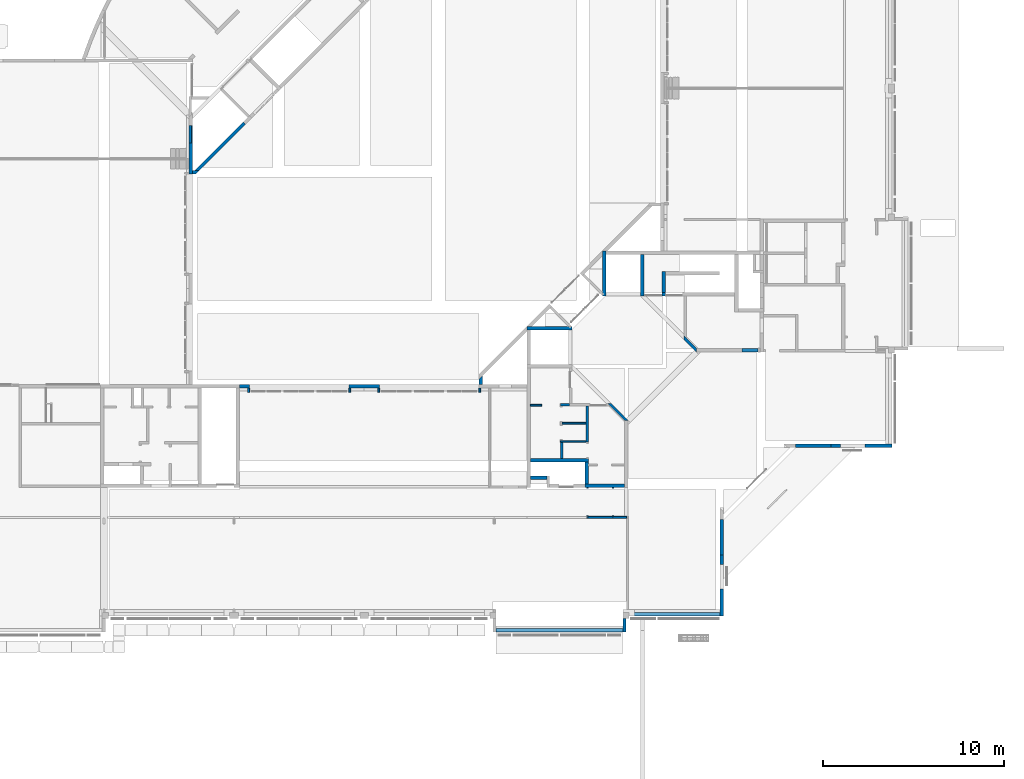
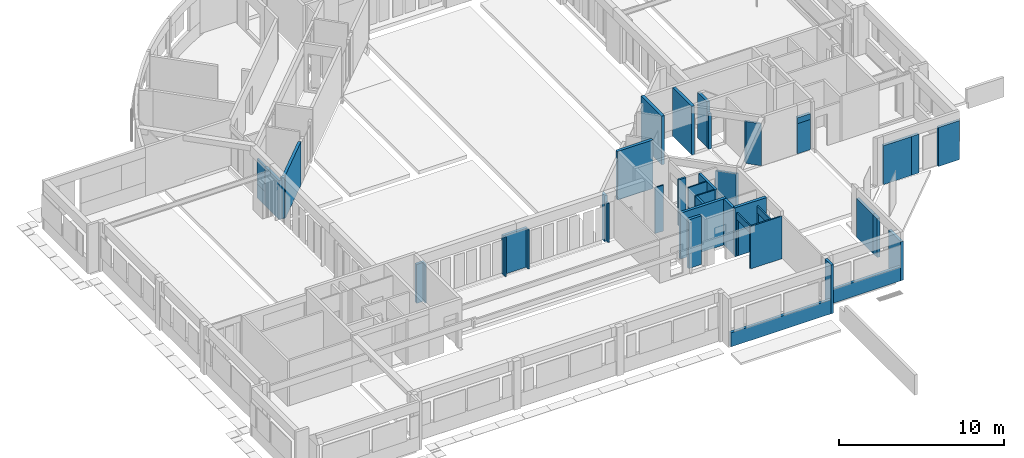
# One storey, part 16 of 30: 43 walls.
"""IFC4X3_ADD2 building model written with IfcOpenShell, lengths in millimetres."""

from ifc_helpers import new_model, si_unit, direction, frame, frame_2d, origin_with_axes, origin_2d_with_axis, place, context, subcontext, project, spatial, polyline, rectangle, outline, extrude, source, transform, mapped, material, type_object, type_shapes, element, save


model = new_model("IFC4X3_ADD2")

# Units and contexts
model_context = context("Model", 3, precision=1e-05, world=origin_with_axes(), true_north=direction((0.0, 1.0)))
body_context = subcontext(model_context, "Body", "Model", "MODEL_VIEW")
ifc_project = project(units=[si_unit("LENGTHUNIT", "METRE", prefix="MILLI"), si_unit("AREAUNIT", "SQUARE_METRE"), si_unit("VOLUMEUNIT", "CUBIC_METRE"), si_unit("PLANEANGLEUNIT", "RADIAN"), si_unit("TIMEUNIT", "SECOND"), si_unit("MASSUNIT", "GRAM")], contexts=[model_context])

# Site, building, storey
site_placement = place(None, origin_with_axes())
site = spatial("IfcSite", under=ifc_project, at=site_placement, Name="Site", CompositionType="ELEMENT")
building_placement = place(site_placement, origin_with_axes())
building = spatial("IfcBuilding", under=site, at=building_placement, Name="IFC Building Story")
storey_placement = place(building_placement, origin_with_axes())
storey = spatial("IfcBuildingStorey", under=building, at=storey_placement, Name="000", Elevation=0.0)

# Walls
ifc_material_1 = material(Name="BB_Beton_Bestaand")
wall_type_1 = type_object("IfcWallType", Name="BB_Beton_Bestaand 200", PredefinedType="NOTDEFINED", material=ifc_material_1)
wall_1_placement = place(storey_placement, origin_with_axes())
element("IfcWall", 1, at=wall_1_placement, inside=storey, type_object=wall_type_1, Name="Basic Wall:BB_XX_Wand uit beton, 200 mm", ObjectType="Basic Wall:BB_XX_Wand uit beton, 200 mm", PredefinedType="SOLIDWALL", context=body_context, shape_type="SweptSolid", body=[
    extrude(rectangle(XDim=2500.254939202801, YDim=199.9999999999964, at=frame_2d((0.0, 0.0), x_axis=(0.0, 1.0))), frame((-15815.0, 18850.1274696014, -80.0), z_axis=(0.0, 0.0, 1.0), x_axis=(1.0, 0.0, 0.0)), (0.0, 0.0, 1.0), 3600.0),
])
wall_2_placement = place(storey_placement, origin_with_axes())
element("IfcWall", 2, at=wall_2_placement, inside=storey, type_object=wall_type_1, Name="Basic Wall:BB_XX_Wand uit beton, 200 mm", ObjectType="Basic Wall:BB_XX_Wand uit beton, 200 mm", PredefinedType="SOLIDWALL", context=body_context, shape_type="SweptSolid", body=[
    extrude(rectangle(XDim=2299.999999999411, YDim=199.9999999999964, at=frame_2d((0.0, 0.0), x_axis=(0.0, 1.0))), frame((-13715.0, 18749.99999999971, -80.0), z_axis=(0.0, 0.0, 1.0), x_axis=(1.0, 0.0, 0.0)), (0.0, 0.0, 1.0), 3600.0),
])
wall_3_placement = place(storey_placement, origin_with_axes())
element("IfcWall", 3, at=wall_3_placement, inside=storey, type_object=wall_type_1, Name="Basic Wall:BB_XX_Wand uit beton, 200 mm", ObjectType="Basic Wall:BB_XX_Wand uit beton, 200 mm", PredefinedType="SOLIDWALL", context=body_context, shape_type="SweptSolid", body=[
    extrude(rectangle(XDim=2499.999999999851, YDim=199.9999999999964, at=origin_2d_with_axis()), frame((-18850.00000000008, 15815.0, -80.0), z_axis=(0.0, 0.0, 1.0), x_axis=(1.0, 0.0, 0.0)), (0.0, 0.0, 1.0), 3600.0),
])
wall_4_placement = place(storey_placement, origin_with_axes())
element("IfcWall", 4, at=wall_4_placement, inside=storey, type_object=wall_type_1, Name="Basic Wall:BB_XX_Wand uit beton, 200 mm", ObjectType="Basic Wall:BB_XX_Wand uit beton, 200 mm", PredefinedType="SOLIDWALL", context=body_context, shape_type="SweptSolid", body=[
    extrude(rectangle(XDim=2190.0, YDim=200.0, at=origin_2d_with_axis()), frame((-15795.0, 7100.0, -100.0), z_axis=(0.0, 0.0, 1.0), x_axis=(1.0, 0.0, 0.0)), (0.0, 0.0, 1.0), 3620.0),
])
wall_type_2 = type_object("IfcWallType", Name="BB_Beton_Bestaand 190", PredefinedType="NOTDEFINED", material=ifc_material_1)
wall_5_placement = place(storey_placement, origin_with_axes())
element("IfcWall", 5, at=wall_5_placement, inside=storey, type_object=wall_type_2, Name="Basic Wall:BB_XX_Wand uit beton, 190 mm", ObjectType="Basic Wall:BB_XX_Wand uit beton, 190 mm", PredefinedType="SOLIDWALL", context=body_context, shape_type="SweptSolid", body=[
    extrude(rectangle(XDim=7009.999999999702, YDim=190.0, at=origin_2d_with_axis()), frame((-18299.99999999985, -900.0, -200.0), z_axis=(0.0, 0.0, 1.0), x_axis=(1.0, 0.0, 0.0)), (0.0, 0.0, 1.0), 1040.0),
])
wall_6_placement = place(storey_placement, origin_with_axes())
element("IfcWall", 6, at=wall_6_placement, inside=storey, type_object=wall_type_2, Name="Basic Wall:BB_XX_Wand uit beton, 190 mm", ObjectType="Basic Wall:BB_XX_Wand uit beton, 190 mm", PredefinedType="SOLIDWALL", context=body_context, shape_type="SweptSolid", body=[
    extrude(rectangle(XDim=5040.00000000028, YDim=190.0, at=origin_2d_with_axis()), frame((-11934.99999999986, 0.0, -200.0), z_axis=(0.0, 0.0, 1.0), x_axis=(1.0, 0.0, 0.0)), (0.0, 0.0, 1.0), 1040.0),
])
wall_7_placement = place(storey_placement, origin_with_axes())
element("IfcWall", 7, at=wall_7_placement, inside=storey, type_object=wall_type_2, Name="Basic Wall:BB_XX_Wand uit beton, 190 mm", ObjectType="Basic Wall:BB_XX_Wand uit beton, 190 mm", PredefinedType="SOLIDWALL", context=body_context, shape_type="SweptSolid", body=[
    extrude(rectangle(XDim=1965.00000000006, YDim=190.0, at=frame_2d((0.0, 0.0), x_axis=(0.0, 1.0))), frame((-9320.0, 4257.49999999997, -200.0), z_axis=(0.0, 0.0, 1.0), x_axis=(1.0, 0.0, 0.0)), (0.0, 0.0, 1.0), 2880.0),
])
wall_8_placement = place(storey_placement, origin_with_axes())
element("IfcWall", 8, at=wall_8_placement, inside=storey, type_object=wall_type_2, Name="Basic Wall:BB_XX_Wand uit beton, 190 mm", ObjectType="Basic Wall:BB_XX_Wand uit beton, 190 mm", PredefinedType="SOLIDWALL", context=body_context, shape_type="SweptSolid", body=[
    extrude(rectangle(XDim=1479.99999999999, YDim=190.0, at=origin_2d_with_axis()), frame((-644.999999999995, 9320.0, -200.0), z_axis=(0.0, 0.0, 1.0), x_axis=(1.0, 0.0, 0.0)), (0.0, 0.0, 1.0), 2880.0),
])
wall_9_placement = place(storey_placement, origin_with_axes())
element("IfcWall", 9, at=wall_9_placement, inside=storey, type_object=wall_type_2, Name="Basic Wall:BB_XX_Wand uit beton, 190 mm", ObjectType="Basic Wall:BB_XX_Wand uit beton, 190 mm", PredefinedType="SOLIDWALL", context=body_context, shape_type="SweptSolid", body=[
    extrude(rectangle(XDim=1965.00000000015, YDim=190.0, at=origin_2d_with_axis()), frame((-4257.500000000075, 9320.0, -200.0), z_axis=(0.0, 0.0, 1.0), x_axis=(1.0, 0.0, 0.0)), (0.0, 0.0, 1.0), 2880.0),
])
wall_10_placement = place(storey_placement, origin_with_axes())
element("IfcWall", 10, at=wall_10_placement, inside=storey, type_object=wall_type_2, Name="Basic Wall:BB_XX_Wand uit beton, 190 mm", ObjectType="Basic Wall:BB_XX_Wand uit beton, 190 mm", PredefinedType="SOLIDWALL", context=body_context, shape_type="SweptSolid", body=[
    extrude(rectangle(XDim=1710.0, YDim=190.0000000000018, at=origin_2d_with_axis()), frame((-29100.0, 12600.004065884, -200.0), z_axis=(0.0, 0.0, 1.0), x_axis=(1.0, 0.0, 0.0)), (0.0, 0.0, 1.0), 2880.0),
])
wall_11_placement = place(storey_placement, origin_with_axes())
element("IfcWall", 11, at=wall_11_placement, inside=storey, type_object=wall_type_2, Name="Basic Wall:BB_XX_Wand uit beton, 190 mm", ObjectType="Basic Wall:BB_XX_Wand uit beton, 190 mm", PredefinedType="SOLIDWALL", context=body_context, shape_type="SweptSolid", body=[
    extrude(rectangle(XDim=554.9999999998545, YDim=190.0, at=origin_2d_with_axis()), frame((-35722.49999999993, 12600.004065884, -200.0), z_axis=(0.0, 0.0, 1.0), x_axis=(1.0, 0.0, 0.0)), (0.0, 0.0, 1.0), 2880.0),
])
wall_12_placement = place(storey_placement, origin_with_axes())
element("IfcWall", 12, at=wall_12_placement, inside=storey, type_object=wall_type_2, Name="Basic Wall:BB_XX_Wand uit beton, 190 mm", ObjectType="Basic Wall:BB_XX_Wand uit beton, 190 mm", PredefinedType="SOLIDWALL", context=body_context, shape_type="SweptSolid", body=[
    extrude(rectangle(XDim=1480.00000000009, YDim=190.0, at=frame_2d((0.0, 0.0), x_axis=(0.0, 1.0))), frame((-9320.0, 644.999999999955, -200.0), z_axis=(0.0, 0.0, 1.0), x_axis=(1.0, 0.0, 0.0)), (0.0, 0.0, 1.0), 2880.0),
])
wall_13_placement = place(storey_placement, origin_with_axes())
element("IfcWall", 13, at=wall_13_placement, inside=storey, type_object=wall_type_2, Name="Basic Wall:BB_XX_Wand uit beton, 190 mm", ObjectType="Basic Wall:BB_XX_Wand uit beton, 190 mm", PredefinedType="SOLIDWALL", context=body_context, shape_type="SweptSolid", body=[
    extrude(rectangle(XDim=1710.0, YDim=190.0, at=frame_2d((0.0, 0.0), x_axis=(0.0, 1.0))), frame((-38700.0, 25200.0, -200.0), z_axis=(0.0, 0.0, 1.0), x_axis=(1.0, 0.0, 0.0)), (0.0, 0.0, 1.0), 2880.0),
])
wall_14_placement = place(storey_placement, origin_with_axes())
element("IfcWall", 14, at=wall_14_placement, inside=storey, type_object=wall_type_2, Name="Basic Wall:BB_XX_Wand uit beton, 190 mm", ObjectType="Basic Wall:BB_XX_Wand uit beton, 190 mm", PredefinedType="SOLIDWALL", context=body_context, shape_type="SweptSolid", body=[
    extrude(rectangle(XDim=990.0000000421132, YDim=190.0, at=frame_2d((0.0, 0.0), x_axis=(0.0, 1.0))), frame((-38700.0, 26549.99999997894, -200.0), z_axis=(0.0, 0.0, 1.0), x_axis=(1.0, 0.0, 0.0)), (0.0, 0.0, 1.0), 1040.0),
])
wall_type_3 = type_object("IfcWallType", Name="BB_Beton_Bestaand 170", PredefinedType="NOTDEFINED", material=ifc_material_1)
wall_15_placement = place(storey_placement, origin_with_axes())
element("IfcWall", 15, at=wall_15_placement, inside=storey, type_object=wall_type_3, Name="Basic Wall:BB_XX_Wand uit beton, 170 mm", ObjectType="Basic Wall:BB_XX_Wand uit beton, 170 mm", PredefinedType="SOLIDWALL", context=body_context, shape_type="SweptSolid", body=[
    extrude(rectangle(XDim=750.000000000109, YDim=170.0, at=frame_2d((0.0, 0.0), x_axis=(0.0, 1.0))), frame((-14710.0, -620.0000000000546, -200.0), z_axis=(0.0, 0.0, 1.0), x_axis=(1.0, 0.0, 0.0)), (0.0, 0.0, 1.0), 3600.0),
])
ifc_material_2 = material(Name="BB_Metselwerk_Bestaand")
wall_type_4 = type_object("IfcWallType", Name="BB_Metselwerk_Bestaand 140", PredefinedType="NOTDEFINED", material=ifc_material_2)
wall_16_placement = place(storey_placement, origin_with_axes())
element("IfcWall", 16, at=wall_16_placement, inside=storey, type_object=wall_type_4, Name="Basic Wall:BB_XX_Wand uit metselwerk, 140 mm", ObjectType="Basic Wall:BB_XX_Wand uit metselwerk, 140 mm", PredefinedType="SOLIDWALL", context=body_context, shape_type="SweptSolid", body=[
    extrude(outline(polyline([(-341.4949493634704, 440.4898987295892), (340.4898987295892, -241.4949493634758), (342.4999999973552, -441.4949493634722), (-341.494949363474, 242.4999999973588), (-341.4949493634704, 440.4898987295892)])), frame((-11058.50505063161, 14941.49494936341, -80.0), z_axis=(0.0, 0.0, 1.0), x_axis=(1.0, 0.0, 0.0)), (0.0, 0.0, 1.0), 3100.0),
])
wall_17_placement = place(storey_placement, origin_with_axes())
element("IfcWall", 17, at=wall_17_placement, inside=storey, type_object=wall_type_4, Name="Basic Wall:BB_XX_Wand uit metselwerk, 140 mm", ObjectType="Basic Wall:BB_XX_Wand uit metselwerk, 140 mm", PredefinedType="SOLIDWALL", context=body_context, shape_type="SweptSolid", body=[
    extrude(outline(polyline([(366.9974746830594, -465.9924240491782), (-565.9924240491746, 466.9974746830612), (-368.0025253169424, 466.9974746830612), (566.9974746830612, -468.002525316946), (366.9974746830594, -465.9924240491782)])), frame((-15066.99747468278, 11183.00252531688, -80.0), z_axis=(0.0, 0.0, 1.0), x_axis=(1.0, 0.0, 0.0)), (0.0, 0.0, 1.0), 3100.0),
])
wall_18_placement = place(storey_placement, origin_with_axes())
element("IfcWall", 18, at=wall_18_placement, inside=storey, type_object=wall_type_4, Name="Basic Wall:BB_XX_Wand uit metselwerk, 140 mm", ObjectType="Basic Wall:BB_XX_Wand uit metselwerk, 140 mm", PredefinedType="SOLIDWALL", context=body_context, shape_type="SweptSolid", body=[
    extrude(rectangle(XDim=500.0000000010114, YDim=140.0, at=origin_2d_with_axis()), frame((-17989.99999999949, 11580.0, -80.0), z_axis=(0.0, 0.0, 1.0), x_axis=(1.0, 0.0, 0.0)), (0.0, 0.0, 1.0), 3400.0),
])
wall_19_placement = place(storey_placement, origin_with_axes())
element("IfcWall", 19, at=wall_19_placement, inside=storey, type_object=wall_type_4, Name="Basic Wall:BB_XX_Wand uit metselwerk, 140 mm", ObjectType="Basic Wall:BB_XX_Wand uit metselwerk, 140 mm", PredefinedType="SOLIDWALL", context=body_context, shape_type="SweptSolid", body=[
    extrude(rectangle(XDim=910.0, YDim=140.0, at=frame_2d((0.0, 0.0), x_axis=(0.0, 1.0))), frame((-18170.0, 9055.0, -80.0), z_axis=(0.0, 0.0, 1.0), x_axis=(1.0, 0.0, 0.0)), (0.0, 0.0, 1.0), 3400.0),
])
wall_20_placement = place(storey_placement, origin_with_axes())
element("IfcWall", 20, at=wall_20_placement, inside=storey, type_object=wall_type_4, Name="Basic Wall:BB_XX_Wand uit metselwerk, 140 mm", ObjectType="Basic Wall:BB_XX_Wand uit metselwerk, 140 mm", PredefinedType="SOLIDWALL", context=body_context, shape_type="SweptSolid", body=[
    extrude(rectangle(XDim=2000.000000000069, YDim=140.0, at=frame_2d((0.0, 0.0), x_axis=(0.0, 1.0))), frame((-16770.0, 10510.00000000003, -80.0), z_axis=(0.0, 0.0, 1.0), x_axis=(1.0, 0.0, 0.0)), (0.0, 0.0, 1.0), 3400.0),
])
wall_type_5 = type_object("IfcWallType", Name="BB_Metselwerk_Bestaand 190", PredefinedType="NOTDEFINED", material=ifc_material_2)
wall_21_placement = place(storey_placement, origin_with_axes())
element("IfcWall", 21, at=wall_21_placement, inside=storey, type_object=wall_type_5, Name="Basic Wall:BB_XX_Wand uit metselwerk, 190 mm", ObjectType="Basic Wall:BB_XX_Wand uit metselwerk, 190 mm", PredefinedType="SOLIDWALL", context=body_context, shape_type="SweptSolid", body=[
    extrude(rectangle(XDim=899.8359209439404, YDim=190.0, at=origin_2d_with_axis()), frame((-19450.08203952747, 7545.0, -200.0), z_axis=(0.0, 0.0, 1.0), x_axis=(1.0, 0.0, 0.0)), (0.0, 0.0, 1.0), 3600.0),
])
wall_22_placement = place(storey_placement, origin_with_axes())
element("IfcWall", 22, at=wall_22_placement, inside=storey, type_object=wall_type_5, Name="Basic Wall:BB_XX_Wand uit metselwerk, 190 mm", ObjectType="Basic Wall:BB_XX_Wand uit metselwerk, 190 mm", PredefinedType="SOLIDWALL", context=body_context, shape_type="SweptSolid", body=[
    extrude(rectangle(XDim=3199.884221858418, YDim=190.0, at=origin_2d_with_axis()), frame((-18300.05788907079, 8505.0, -80.0), z_axis=(0.0, 0.0, 1.0), x_axis=(1.0, 0.0, 0.0)), (0.0, 0.0, 1.0), 3400.0),
])
wall_23_placement = place(storey_placement, origin_with_axes())
element("IfcWall", 23, at=wall_23_placement, inside=storey, type_object=wall_type_5, Name="Basic Wall:BB_XX_Wand uit metselwerk, 190 mm", ObjectType="Basic Wall:BB_XX_Wand uit metselwerk, 190 mm", PredefinedType="SOLIDWALL", context=body_context, shape_type="SweptSolid", body=[
    extrude(rectangle(XDim=1210.00000000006, YDim=190.0, at=frame_2d((0.0, 0.0), x_axis=(0.0, 1.0))), frame((-16795.1157781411, 7804.99999999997, -80.0), z_axis=(0.0, 0.0, 1.0), x_axis=(1.0, 0.0, 0.0)), (0.0, 0.0, 1.0), 3400.0),
])
wall_24_placement = place(storey_placement, origin_with_axes())
element("IfcWall", 24, at=wall_24_placement, inside=storey, type_object=wall_type_5, Name="Basic Wall:BB_XX_Wand uit metselwerk, 200 mm", ObjectType="Basic Wall:BB_XX_Wand uit metselwerk, 200 mm", PredefinedType="SOLIDWALL", context=body_context, shape_type="SweptSolid", body=[
    extrude(rectangle(XDim=200.0, YDim=190.0, at=frame_2d((0.0, 0.0), x_axis=(0.0, 1.0))), frame((-12532.4999999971, 17700.0, -80.0), z_axis=(0.0, 0.0, 1.0), x_axis=(1.0, 0.0, 0.0)), (0.0, 0.0, 1.0), 2630.0),
])
wall_25_placement = place(storey_placement, origin_with_axes())
element("IfcWall", 25, at=wall_25_placement, inside=storey, type_object=wall_type_5, Name="Basic Wall:BB_XX_Wand uit metselwerk, 190 mm", ObjectType="Basic Wall:BB_XX_Wand uit metselwerk, 190 mm", PredefinedType="SOLIDWALL", context=body_context, shape_type="SweptSolid", body=[
    extrude(rectangle(XDim=1145.000000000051, YDim=190.0, at=frame_2d((0.0, 0.0), x_axis=(0.0, 1.0))), frame((-12532.4999999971, 18372.50000000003, -50.0), z_axis=(0.0, 0.0, 1.0), x_axis=(1.0, 0.0, 0.0)), (0.0, 0.0, 1.0), 3370.0),
])
ifc_material_3 = material(Name="BB_Metselwerk_Betonsteen")
wall_type_6 = type_object("IfcWallType", Name="BB_Metselwerk_Betonsteen 190", PredefinedType="NOTDEFINED", material=ifc_material_3)
wall_26_placement = place(storey_placement, origin_with_axes())
element("IfcWall", 26, at=wall_26_placement, inside=storey, type_object=wall_type_6, Name="Basic Wall:BB_03.09.24#03_Wand uit metselwerk, 190 mm", ObjectType="Basic Wall:BB_03.09.24#03_Wand uit metselwerk, 190 mm", PredefinedType="SOLIDWALL", context=body_context, shape_type="SweptSolid", body=[
    extrude(rectangle(XDim=525.0, YDim=190.0, at=frame_2d((0.0, 0.0), x_axis=(0.0, 1.0))), frame((-9320.0, 3012.5, -200.0), z_axis=(0.0, 0.0, 1.0), x_axis=(1.0, 0.0, 0.0)), (0.0, 0.0, 1.0), 2880.0),
])
wall_27_placement = place(storey_placement, origin_with_axes())
element("IfcWall", 27, at=wall_27_placement, inside=storey, type_object=wall_type_6, Name="Basic Wall:BB_03.09.24#03_Wand uit metselwerk, 190 mm", ObjectType="Basic Wall:BB_03.09.24#03_Wand uit metselwerk, 190 mm", PredefinedType="SOLIDWALL", context=body_context, shape_type="SweptSolid", body=[
    extrude(rectangle(XDim=524.9999999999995, YDim=190.0, at=origin_2d_with_axis()), frame((-3012.5, 9320.0, -200.0), z_axis=(0.0, 0.0, 1.0), x_axis=(1.0, 0.0, 0.0)), (0.0, 0.0, 1.0), 2880.0),
])
wall_28_placement = place(storey_placement, origin_with_axes())
element("IfcWall", 28, at=wall_28_placement, inside=storey, type_object=wall_type_6, Name="Basic Wall:BB_03.09.24#05_Wand uit metselwerk_EI60, 190 mm", ObjectType="Basic Wall:BB_03.09.24#05_Wand uit metselwerk_EI60, 190 mm", PredefinedType="SOLIDWALL", context=body_context, shape_type="SweptSolid", body=[
    extrude(rectangle(XDim=909.9999999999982, YDim=190.0, at=origin_2d_with_axis()), frame((-7754.999999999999, 14595.0, -80.0), z_axis=(0.0, 0.0, 1.0), x_axis=(1.0, 0.0, 0.0)), (0.0, 0.0, 1.0), 2240.0),
])
wall_29_placement = place(storey_placement, origin_with_axes())
element("IfcWall", 29, at=wall_29_placement, inside=storey, type_object=wall_type_6, Name="Basic Wall:BB_03.09.24#03_Wand uit metselwerk, 190 mm", ObjectType="Basic Wall:BB_03.09.24#03_Wand uit metselwerk, 190 mm", PredefinedType="SOLIDWALL", context=body_context, shape_type="SweptSolid", body=[
    extrude(outline(polyline([(95.0, 290.545529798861), (95.0, -195.5455297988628), (-95.0, -195.5455297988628), (-95.0, 100.5455297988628), (95.0, 290.545529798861)])), frame((-22649.8526351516, 12890.54959568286, -400.0), z_axis=(0.0, 0.0, 1.0), x_axis=(1.0, 0.0, 0.0)), (0.0, 0.0, 1.0), 3399.99999997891),
])
wall_30_placement = place(storey_placement, origin_with_axes())
element("IfcWall", 30, at=wall_30_placement, inside=storey, type_object=wall_type_6, Name="Basic Wall:BB_03.09.24#05_Wand uit metselwerk_EI60, 190 mm", ObjectType="Basic Wall:BB_03.09.24#05_Wand uit metselwerk_EI60, 190 mm", PredefinedType="SOLIDWALL", context=body_context, shape_type="SweptSolid", body=[
    extrude(outline(polyline([(1374.038662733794, 1239.688374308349), (-1172.513230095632, -1306.863518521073), (-1441.213806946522, -1306.863518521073), (1239.688374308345, 1374.038662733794), (1374.038662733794, 1239.688374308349)])), frame((-37042.7898079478, 25851.8635185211, -400.0), z_axis=(0.0, 0.0, 1.0), x_axis=(1.0, 0.0, 0.0)), (0.0, 0.0, 1.0), 3200.0),
])
wall_type_7 = type_object("IfcWallType", Name="BB_Metselwerk_Betonsteen 0", PredefinedType="NOTDEFINED", material=ifc_material_3)
wall_31_placement = place(storey_placement, origin_with_axes())
element("IfcWall", 31, at=wall_31_placement, inside=storey, type_object=wall_type_7, Name="Basic Wall:BB_03.09.24#05_Wand uit metselwerk_EI60, 190 mm", ObjectType="Basic Wall:BB_03.09.24#05_Wand uit metselwerk_EI60, 190 mm", PredefinedType="SOLIDWALL", context=body_context, shape_type="SweptSolid", body=[
    extrude(outline(polyline([(-147.3484809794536, 95.0), (242.3484809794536, 95.0), (52.3484809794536, -95.0), (-147.3484809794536, -95.0), (-147.3484809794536, 95.0)])), frame((-38457.65151902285, 24450.0, -200.0), z_axis=(0.0, 0.0, 1.0), x_axis=(1.0, 0.0, 0.0)), (0.0, 0.0, 1.0), 3000.0),
])
wall_type_8 = type_object("IfcWallType", Name="Basic Wall_BB_10.01.41#21_Gipskartonwand_EI60_43dB_MS100 _ 25.50.25_ 100 mm", PredefinedType="NOTDEFINED")
shared_shape_1 = source(origin_with_axes(), body_context, "Body", "SweptSolid", [
    extrude(rectangle(XDim=2114.999999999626, YDim=12.49999999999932, at=origin_2d_with_axis()), frame((1057.500000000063, 43.74999999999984, 0.0), z_axis=(0.0, 0.0, 1.0), x_axis=(1.0, 0.0, 0.0)), (0.0, 0.0, 1.0), 3150.0),
    extrude(rectangle(XDim=2127.49999999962, YDim=12.50000000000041, at=origin_2d_with_axis()), frame((1051.24999999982, 31.24999999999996, 0.0), z_axis=(0.0, 0.0, 1.0), x_axis=(1.0, 0.0, 0.0)), (0.0, 0.0, 1.0), 3150.0),
    extrude(rectangle(XDim=2139.99999999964, YDim=49.99999999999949, at=origin_2d_with_axis()), frame((1045.0, 0.0, 0.0), z_axis=(0.0, 0.0, 1.0), x_axis=(1.0, 0.0, 0.0)), (0.0, 0.0, 1.0), 3150.0),
    extrude(rectangle(XDim=2189.99999999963, YDim=12.5000000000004, at=origin_2d_with_axis()), frame((1020.000000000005, -31.24999999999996, 0.0), z_axis=(0.0, 0.0, 1.0), x_axis=(1.0, 0.0, 0.0)), (0.0, 0.0, 1.0), 3150.0),
    extrude(rectangle(XDim=2202.49999999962, YDim=12.49999999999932, at=origin_2d_with_axis()), frame((1013.74999999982, -43.75000000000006, 0.0), z_axis=(0.0, 0.0, 1.0), x_axis=(1.0, 0.0, 0.0)), (0.0, 0.0, 1.0), 3150.0),
])
type_shapes(wall_type_8, [shared_shape_1])
wall_32_placement = place(storey_placement, frame((-16700.0, 5350.0, -10.0), z_axis=(0.0, 0.0, 1.0), x_axis=(1.0, 0.0, 0.0)))
element("IfcWall", 32, at=wall_32_placement, inside=storey, type_object=wall_type_8, Name="Basic Wall:BB_10.01.41#21_Gipskartonwand_EI60_43dB_MS100 / 25.50.25, 100 mm", ObjectType="Basic Wall:BB_10.01.41#21_Gipskartonwand_EI60_43dB_MS100 / 25.50.25, 100 mm", PredefinedType="PARTITIONING", context=body_context, shape_type="MappedRepresentation", body=[
    mapped(shared_shape_1, transform((0.0, 0.0, 0.0))),
])
wall_type_9 = type_object("IfcWallType", Name="Basic Wall_BB_10.01.41#03_Gipskartonwand_43dB_MS100 _ 25.50.25_ 100 mm7", PredefinedType="NOTDEFINED")
shared_shape_2 = source(origin_with_axes(), body_context, "Body", "SweptSolid", [
    extrude(rectangle(XDim=240.000000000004, YDim=12.50000000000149, at=origin_2d_with_axis()), frame((120.0, 43.75000000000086, 0.0), z_axis=(0.0, 0.0, 1.0), x_axis=(1.0, 0.0, 0.0)), (0.0, 0.0, 1.0), 2880.0),
    extrude(rectangle(XDim=240.000000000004, YDim=12.50000000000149, at=origin_2d_with_axis()), frame((120.0, 31.24999999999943, 0.0), z_axis=(0.0, 0.0, 1.0), x_axis=(1.0, 0.0, 0.0)), (0.0, 0.0, 1.0), 2880.0),
    extrude(rectangle(XDim=240.000000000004, YDim=49.9999999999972, at=origin_2d_with_axis()), frame((119.999999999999, 0.0, 0.0), z_axis=(0.0, 0.0, 1.0), x_axis=(1.0, 0.0, 0.0)), (0.0, 0.0, 1.0), 2880.0),
    extrude(rectangle(XDim=240.000000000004, YDim=12.50000000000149, at=origin_2d_with_axis()), frame((120.0, -31.24999999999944, 0.0), z_axis=(0.0, 0.0, 1.0), x_axis=(1.0, 0.0, 0.0)), (0.0, 0.0, 1.0), 2880.0),
    extrude(rectangle(XDim=240.000000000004, YDim=12.49999999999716, at=origin_2d_with_axis()), frame((119.999999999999, -43.7499999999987, 0.0), z_axis=(0.0, 0.0, 1.0), x_axis=(1.0, 0.0, 0.0)), (0.0, 0.0, 1.0), 2880.0),
])
type_shapes(wall_type_9, [shared_shape_2])
wall_33_placement = place(storey_placement, frame((-22705.0, 12265.004065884, -200.0), z_axis=(0.0, 0.0, 1.0), x_axis=(0.0, 1.0, 0.0)))
element("IfcWall", 33, at=wall_33_placement, inside=storey, type_object=wall_type_9, Name="Basic Wall:BB_10.01.41#03_Gipskartonwand_43dB_MS100 / 25.50.25, 100 mm", ObjectType="Basic Wall:BB_10.01.41#03_Gipskartonwand_43dB_MS100 / 25.50.25, 100 mm", PredefinedType="PARTITIONING", context=body_context, shape_type="MappedRepresentation", body=[
    mapped(shared_shape_2, transform((0.0, 0.0, 0.0))),
])
wall_type_10 = type_object("IfcWallType", Name="Basic Wall_BB_10.01.41#03_Gipskartonwand_43dB_MS100 _ 25.50.25_ 100 mm9", PredefinedType="NOTDEFINED")
shared_shape_3 = source(origin_with_axes(), body_context, "Body", "SweptSolid", [
    extrude(rectangle(XDim=240.000000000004, YDim=12.49999999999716, at=origin_2d_with_axis()), frame((119.999999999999, -43.7499999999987, 0.0), z_axis=(0.0, 0.0, 1.0), x_axis=(1.0, 0.0, 0.0)), (0.0, 0.0, 1.0), 2880.0),
    extrude(rectangle(XDim=240.000000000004, YDim=12.50000000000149, at=origin_2d_with_axis()), frame((120.0, -31.24999999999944, 0.0), z_axis=(0.0, 0.0, 1.0), x_axis=(1.0, 0.0, 0.0)), (0.0, 0.0, 1.0), 2880.0),
    extrude(rectangle(XDim=240.000000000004, YDim=49.9999999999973, at=origin_2d_with_axis()), frame((119.999999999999, 0.0, 0.0), z_axis=(0.0, 0.0, 1.0), x_axis=(1.0, 0.0, 0.0)), (0.0, 0.0, 1.0), 2880.0),
    extrude(rectangle(XDim=240.000000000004, YDim=12.50000000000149, at=origin_2d_with_axis()), frame((120.0, 31.24999999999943, 0.0), z_axis=(0.0, 0.0, 1.0), x_axis=(1.0, 0.0, 0.0)), (0.0, 0.0, 1.0), 2880.0),
    extrude(rectangle(XDim=240.000000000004, YDim=12.50000000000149, at=origin_2d_with_axis()), frame((120.0, 43.75000000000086, 0.0), z_axis=(0.0, 0.0, 1.0), x_axis=(1.0, 0.0, 0.0)), (0.0, 0.0, 1.0), 2880.0),
])
type_shapes(wall_type_10, [shared_shape_3])
wall_34_placement = place(storey_placement, frame((-28295.0, 12265.004065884, -200.0), z_axis=(0.0, 0.0, 1.0), x_axis=(0.0, 1.0, 0.0)))
element("IfcWall", 34, at=wall_34_placement, inside=storey, type_object=wall_type_10, Name="Basic Wall:BB_10.01.41#03_Gipskartonwand_43dB_MS100 / 25.50.25, 100 mm", ObjectType="Basic Wall:BB_10.01.41#03_Gipskartonwand_43dB_MS100 / 25.50.25, 100 mm", PredefinedType="PARTITIONING", context=body_context, shape_type="MappedRepresentation", body=[
    mapped(shared_shape_3, transform((0.0, 0.0, 0.0))),
])
wall_type_11 = type_object("IfcWallType", Name="Basic Wall_BB_10.01.41#03_Gipskartonwand_43dB_MS100 _ 25.50.25_ 100 mm11", PredefinedType="NOTDEFINED")
shared_shape_4 = source(origin_with_axes(), body_context, "Body", "SweptSolid", [
    extrude(rectangle(XDim=240.000000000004, YDim=12.50000000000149, at=origin_2d_with_axis()), frame((120.0, 43.75000000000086, 0.0), z_axis=(0.0, 0.0, 1.0), x_axis=(1.0, 0.0, 0.0)), (0.0, 0.0, 1.0), 2880.0),
    extrude(rectangle(XDim=240.000000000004, YDim=12.50000000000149, at=origin_2d_with_axis()), frame((120.0, 31.24999999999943, 0.0), z_axis=(0.0, 0.0, 1.0), x_axis=(1.0, 0.0, 0.0)), (0.0, 0.0, 1.0), 2880.0),
    extrude(rectangle(XDim=240.000000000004, YDim=49.9999999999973, at=origin_2d_with_axis()), frame((119.999999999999, 0.0, 0.0), z_axis=(0.0, 0.0, 1.0), x_axis=(1.0, 0.0, 0.0)), (0.0, 0.0, 1.0), 2880.0),
    extrude(rectangle(XDim=240.000000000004, YDim=12.50000000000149, at=origin_2d_with_axis()), frame((120.0, -31.24999999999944, 0.0), z_axis=(0.0, 0.0, 1.0), x_axis=(1.0, 0.0, 0.0)), (0.0, 0.0, 1.0), 2880.0),
    extrude(rectangle(XDim=240.000000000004, YDim=12.49999999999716, at=origin_2d_with_axis()), frame((119.999999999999, -43.7499999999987, 0.0), z_axis=(0.0, 0.0, 1.0), x_axis=(1.0, 0.0, 0.0)), (0.0, 0.0, 1.0), 2880.0),
])
type_shapes(wall_type_11, [shared_shape_4])
wall_35_placement = place(storey_placement, frame((-29905.0, 12265.004065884, -200.0), z_axis=(0.0, 0.0, 1.0), x_axis=(0.0, 1.0, 0.0)))
element("IfcWall", 35, at=wall_35_placement, inside=storey, type_object=wall_type_11, Name="Basic Wall:BB_10.01.41#03_Gipskartonwand_43dB_MS100 / 25.50.25, 100 mm", ObjectType="Basic Wall:BB_10.01.41#03_Gipskartonwand_43dB_MS100 / 25.50.25, 100 mm", PredefinedType="PARTITIONING", context=body_context, shape_type="MappedRepresentation", body=[
    mapped(shared_shape_4, transform((0.0, 0.0, 0.0))),
])
wall_type_12 = type_object("IfcWallType", Name="Basic Wall_BB_10.01.41#03_Gipskartonwand_43dB_MS100 _ 25.50.25_ 100 mm13", PredefinedType="NOTDEFINED")
shared_shape_5 = source(origin_with_axes(), body_context, "Body", "SweptSolid", [
    extrude(rectangle(XDim=240.000000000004, YDim=12.49999999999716, at=origin_2d_with_axis()), frame((119.999999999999, -43.7499999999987, 0.0), z_axis=(0.0, 0.0, 1.0), x_axis=(1.0, 0.0, 0.0)), (0.0, 0.0, 1.0), 2880.0),
    extrude(rectangle(XDim=240.000000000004, YDim=12.50000000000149, at=origin_2d_with_axis()), frame((120.0, -31.24999999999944, 0.0), z_axis=(0.0, 0.0, 1.0), x_axis=(1.0, 0.0, 0.0)), (0.0, 0.0, 1.0), 2880.0),
    extrude(rectangle(XDim=240.000000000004, YDim=49.9999999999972, at=origin_2d_with_axis()), frame((119.999999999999, 0.0, 0.0), z_axis=(0.0, 0.0, 1.0), x_axis=(1.0, 0.0, 0.0)), (0.0, 0.0, 1.0), 2880.0),
    extrude(rectangle(XDim=240.000000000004, YDim=12.50000000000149, at=origin_2d_with_axis()), frame((120.0, 31.24999999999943, 0.0), z_axis=(0.0, 0.0, 1.0), x_axis=(1.0, 0.0, 0.0)), (0.0, 0.0, 1.0), 2880.0),
    extrude(rectangle(XDim=240.000000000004, YDim=12.50000000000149, at=origin_2d_with_axis()), frame((120.0, 43.75000000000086, 0.0), z_axis=(0.0, 0.0, 1.0), x_axis=(1.0, 0.0, 0.0)), (0.0, 0.0, 1.0), 2880.0),
])
type_shapes(wall_type_12, [shared_shape_5])
wall_36_placement = place(storey_placement, frame((-35495.0, 12265.004065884, -200.0), z_axis=(0.0, 0.0, 1.0), x_axis=(0.0, 1.0, 0.0)))
element("IfcWall", 36, at=wall_36_placement, inside=storey, type_object=wall_type_12, Name="Basic Wall:BB_10.01.41#03_Gipskartonwand_43dB_MS100 / 25.50.25, 100 mm", ObjectType="Basic Wall:BB_10.01.41#03_Gipskartonwand_43dB_MS100 / 25.50.25, 100 mm", PredefinedType="PARTITIONING", context=body_context, shape_type="MappedRepresentation", body=[
    mapped(shared_shape_5, transform((0.0, 0.0, 0.0))),
])
wall_type_13 = type_object("IfcWallType", Name="Basic Wall_BB_10.01.41#21_Gipskartonwand_EI60_43dB_MS100 _ 25.50.25_ 100 mm1", PredefinedType="NOTDEFINED")
shared_shape_6 = source(origin_with_axes(), body_context, "Body", "SweptSolid", [
    extrude(outline(polyline([(-793.7499999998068, 1450.0), (-758.7500000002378, 1450.0), (-758.7500000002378, -1200.000000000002), (761.249999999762, -1200.0), (761.249999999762, 1450.0), (791.2500000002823, 1450.0), (791.2500000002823, -1700.0), (-793.7499999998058, -1700.0), (-793.7499999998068, 1450.0)])), frame((793.7499999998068, 37.50000000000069, 1450.0), z_axis=(0.0, 1.0, 0.0), x_axis=(1.0, 0.0, 0.0)), (0.0, 0.0, 1.0), 12.49999999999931),
    extrude(outline(polyline([(-632.4999999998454, 1690.000000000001), (-597.5000000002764, 1690.000000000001), (-597.5000000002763, -960.0000000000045), (922.4999999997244, -960.0000000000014), (922.4999999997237, 1690.000000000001), (952.5000000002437, 1690.000000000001), (952.5000000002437, -1459.999999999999), (-644.9999999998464, -1459.999999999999), (-644.9999999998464, -960.0000000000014), (-632.4999999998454, -960.0000000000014), (-632.4999999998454, 1690.000000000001)])), frame((632.4999999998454, 25.00000000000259, 1690.000000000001), z_axis=(0.0, 1.0, 0.0), x_axis=(1.0, 0.0, 0.0)), (0.0, 0.0, 1.0), 12.4999999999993),
    extrude(outline(polyline([(-629.9999999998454, 1690.000000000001), (-595.0000000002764, 1690.000000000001), (-595.0000000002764, -960.0000000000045), (924.9999999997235, -960.0000000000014), (924.9999999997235, 1690.000000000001), (955.0000000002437, 1690.000000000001), (955.0000000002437, -1459.999999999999), (-654.9999999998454, -1459.999999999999), (-654.9999999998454, -960.0000000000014), (-629.9999999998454, -960.0000000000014), (-629.9999999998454, 1690.000000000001)])), frame((629.9999999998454, -25.0000000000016, 1690.000000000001), z_axis=(0.0, 1.0, 0.0), x_axis=(1.0, 0.0, 0.0)), (0.0, 0.0, 1.0), 50.00000000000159),
    extrude(outline(polyline([(-793.7499999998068, 1450.0), (-758.7500000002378, 1450.0), (-758.7500000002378, -1200.000000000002), (761.249999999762, -1200.0), (761.249999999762, 1450.0), (791.2500000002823, 1450.0), (791.2500000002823, -1700.0), (-793.7499999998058, -1700.0), (-793.7499999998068, 1450.0)])), frame((793.7499999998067, -37.49999999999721, 1450.0), z_axis=(0.0, 1.0, 0.0), x_axis=(1.0, 0.0, 0.0)), (0.0, 0.0, 1.0), 12.49999999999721),
    extrude(outline(polyline([(-758.7500000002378, 1450.0), (-758.7500000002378, -1200.000000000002), (761.249999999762, -1200.0), (761.249999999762, 1450.0), (791.2500000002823, 1450.0), (791.2500000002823, -1700.0), (-793.7499999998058, -1700.0), (-793.7499999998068, 1450.0), (-758.7500000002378, 1450.0)])), frame((793.7499999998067, -49.9999999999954, 1450.0), z_axis=(0.0, 1.0, 0.0), x_axis=(1.0, 0.0, 0.0)), (0.0, 0.0, 1.0), 12.4999999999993),
])
type_shapes(wall_type_13, [shared_shape_6])
wall_37_placement = place(storey_placement, frame((-16750.0, 5400.0, -10.0), z_axis=(0.0, 0.0, 1.0), x_axis=(0.0, 1.0, 0.0)))
element("IfcWall", 37, at=wall_37_placement, inside=storey, type_object=wall_type_13, Name="Basic Wall:BB_10.01.41#21_Gipskartonwand_EI60_43dB_MS100 / 25.50.25, 100 mm", ObjectType="Basic Wall:BB_10.01.41#21_Gipskartonwand_EI60_43dB_MS100 / 25.50.25, 100 mm", PredefinedType="PARTITIONING", context=body_context, shape_type="MappedRepresentation", body=[
    mapped(shared_shape_6, transform((0.0, 0.0, 0.0))),
])
wall_type_14 = type_object("IfcWallType", Name="Basic Wall_BB_10.01.41#21_Gipskartonwand_EI60_43dB_MS100 _ 25.50.25_ 100 mm15", PredefinedType="NOTDEFINED")
shared_shape_7 = source(origin_with_axes(), body_context, "Body", "SweptSolid", [
    extrude(outline(polyline([(-793.7499999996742, 1450.0), (-758.7500000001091, 1450.0), (-758.7500000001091, -1200.000000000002), (761.2499999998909, -1200.000000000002), (761.2499999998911, 1450.0), (791.249999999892, 1450.0), (791.249999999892, -1699.999999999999), (-793.7499999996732, -1699.999999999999), (-793.7499999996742, 1450.0)])), frame((793.7499999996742, 37.50000000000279, 1450.0), z_axis=(0.0, 1.0, 0.0), x_axis=(1.0, 0.0, 0.0)), (0.0, 0.0, 1.0), 12.49999999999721),
    extrude(outline(polyline([(-803.1249999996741, 1450.0), (-755.625000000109, 1450.0), (-755.6250000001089, -1200.000000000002), (764.3749999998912, -1200.000000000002), (764.3749999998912, 1450.0), (794.3749999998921, 1450.0), (794.3749999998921, -1699.999999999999), (-803.1249999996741, -1699.999999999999), (-803.1249999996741, 1450.0)])), frame((790.6249999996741, 25.0000000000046, 1450.0), z_axis=(0.0, 1.0, 0.0), x_axis=(1.0, 0.0, 0.0)), (0.0, 0.0, 1.0), 12.4999999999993),
    extrude(outline(polyline([(-974.9999999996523, 1701.999999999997), (-915.0000000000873, 1701.999999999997), (-915.0000000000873, -948.000000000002), (604.9999999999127, -948.000000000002), (604.9999999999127, 1701.999999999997), (649.9999999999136, 1701.999999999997), (649.9999999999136, -1007.999999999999), (634.9999999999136, -1007.999999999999), (634.9999999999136, -1447.999999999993), (-974.9999999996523, -1447.999999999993), (-974.9999999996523, 1701.999999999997)])), frame((949.9999999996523, -25.0000000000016, 1701.999999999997), z_axis=(0.0, 1.0, 0.0), x_axis=(1.0, 0.0, 0.0)), (0.0, 0.0, 1.0), 50.00000000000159),
    extrude(outline(polyline([(-793.7499999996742, 1450.0), (-758.7500000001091, 1450.0), (-758.7500000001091, -1200.000000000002), (761.2499999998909, -1200.000000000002), (761.2499999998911, 1450.0), (791.249999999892, 1450.0), (791.249999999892, -1699.999999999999), (-793.7499999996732, -1699.999999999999), (-793.7499999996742, 1450.0)])), frame((793.749999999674, -37.49999999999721, 1450.0), z_axis=(0.0, 1.0, 0.0), x_axis=(1.0, 0.0, 0.0)), (0.0, 0.0, 1.0), 12.49999999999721),
    extrude(outline(polyline([(761.2499999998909, -1200.000000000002), (761.2499999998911, 1450.0), (791.249999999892, 1450.0), (791.249999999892, -1699.999999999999), (-793.7499999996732, -1699.999999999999), (-793.7499999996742, 1450.0), (-758.7500000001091, 1450.0), (-758.7500000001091, -1200.000000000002), (761.2499999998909, -1200.000000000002)])), frame((793.7499999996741, -49.99999999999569, 1450.0), z_axis=(0.0, 1.0, 0.0), x_axis=(1.0, 0.0, 0.0)), (0.0, 0.0, 1.0), 12.50000000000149),
])
type_shapes(wall_type_14, [shared_shape_7])
wall_38_placement = place(storey_placement, frame((-15335.0, 5400.0, -10.0), z_axis=(0.0, 0.0, 1.0), x_axis=(0.0, 1.0, 0.0)))
element("IfcWall", 38, at=wall_38_placement, inside=storey, type_object=wall_type_14, Name="Basic Wall:BB_10.01.41#21_Gipskartonwand_EI60_43dB_MS100 / 25.50.25, 100 mm", ObjectType="Basic Wall:BB_10.01.41#21_Gipskartonwand_EI60_43dB_MS100 / 25.50.25, 100 mm", PredefinedType="PARTITIONING", context=body_context, shape_type="MappedRepresentation", body=[
    mapped(shared_shape_7, transform((0.0, 0.0, 0.0))),
])
wall_type_15 = type_object("IfcWallType", Name="BB_Metselwerk_Bestaand 200", PredefinedType="NOTDEFINED", material=ifc_material_2)
wall_39_placement = place(storey_placement, origin_with_axes())
element("IfcWall", 39, at=wall_39_placement, inside=storey, type_object=wall_type_15, Name="Basic Wall:BB_XX_Wand uit metselwerk, 200 mm", ObjectType="Basic Wall:BB_XX_Wand uit metselwerk, 200 mm", PredefinedType="SOLIDWALL", context=body_context, shape_type="SweptSolid", body=[
    extrude(rectangle(XDim=909.9999999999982, YDim=199.9999999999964, at=origin_2d_with_axis()), frame((-7754.999999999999, 14600.0, 2160.0), z_axis=(0.0, 0.0, 1.0), x_axis=(1.0, 0.0, 0.0)), (0.0, 0.0, 1.0), 429.999999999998),
])
wall_type_16 = type_object("IfcWallType", Name="BB_Metselwerk_Betonsteen 140", PredefinedType="NOTDEFINED", material=ifc_material_3)
wall_40_placement = place(storey_placement, origin_with_axes())
element("IfcWall", 40, at=wall_40_placement, inside=storey, type_object=wall_type_16, Name="Basic Wall:BB_03.09.24#02_Wand uit metselwerk_EI60_43dB, 140 mm", ObjectType="Basic Wall:BB_03.09.24#02_Wand uit metselwerk_EI60_43dB, 140 mm", PredefinedType="SOLIDWALL", context=body_context, shape_type="SweptSolid", body=[
    extrude(rectangle(XDim=990.0000000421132, YDim=140.0, at=frame_2d((0.0, 0.0), x_axis=(0.0, 1.0))), frame((-38725.0, 26550.00000002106, 840.0), z_axis=(0.0, 0.0, 1.0), x_axis=(1.0, 0.0, 0.0)), (0.0, 0.0, 1.0), 1840.0),
])
wall_type_17 = type_object("IfcWallType", Name="BB_Metselwerk_Bestaand 90", PredefinedType="NOTDEFINED", material=ifc_material_2)
wall_41_placement = place(storey_placement, origin_with_axes())
element("IfcWall", 41, at=wall_41_placement, inside=storey, type_object=wall_type_17, Name="Basic Wall:BB_XX_Wand uit metselwerk, 90 mm", ObjectType="Basic Wall:BB_XX_Wand uit metselwerk, 90 mm", PredefinedType="SOLIDWALL", context=body_context, shape_type="SweptSolid", body=[
    extrude(rectangle(XDim=1400.0, YDim=90.0, at=origin_2d_with_axis()), frame((-17540.0, 9555.0, -80.0), z_axis=(0.0, 0.0, 1.0), x_axis=(1.0, 0.0, 0.0)), (0.0, 0.0, 1.0), 3400.0),
])
wall_42_placement = place(storey_placement, origin_with_axes())
element("IfcWall", 42, at=wall_42_placement, inside=storey, type_object=wall_type_17, Name="Basic Wall:BB_XX_Wand uit metselwerk, 90 mm", ObjectType="Basic Wall:BB_XX_Wand uit metselwerk, 90 mm", PredefinedType="SOLIDWALL", context=body_context, shape_type="SweptSolid", body=[
    extrude(rectangle(XDim=1310.000000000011, YDim=90.0, at=origin_2d_with_axis()), frame((-17495.0, 10555.0, -80.0), z_axis=(0.0, 0.0, 1.0), x_axis=(1.0, 0.0, 0.0)), (0.0, 0.0, 1.0), 3400.0),
])
wall_43_placement = place(storey_placement, origin_with_axes())
element("IfcWall", 43, at=wall_43_placement, inside=storey, type_object=wall_type_17, Name="Basic Wall:BB_XX_Wand uit metselwerk, 90 mm", ObjectType="Basic Wall:BB_XX_Wand uit metselwerk, 90 mm", PredefinedType="SOLIDWALL", context=body_context, shape_type="SweptSolid", body=[
    extrude(rectangle(XDim=610.0000000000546, YDim=90.0, at=origin_2d_with_axis()), frame((-19594.99999999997, 11555.0, -80.0), z_axis=(0.0, 0.0, 1.0), x_axis=(1.0, 0.0, 0.0)), (0.0, 0.0, 1.0), 3400.0),
])

save(model, "model.ifc")
